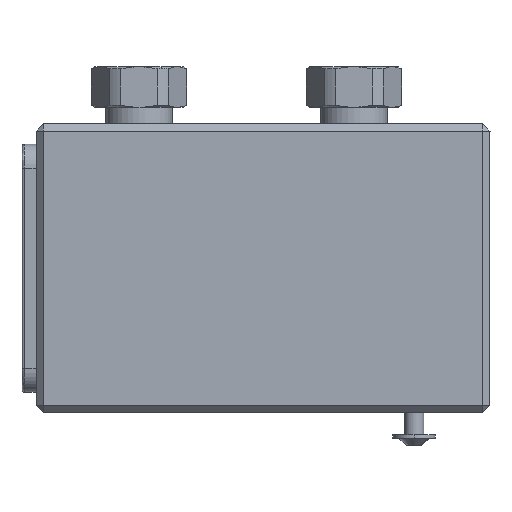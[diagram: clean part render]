
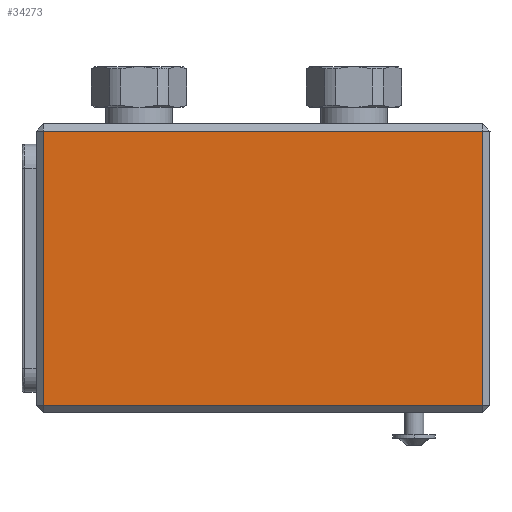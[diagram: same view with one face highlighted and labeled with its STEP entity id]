
A CAD part, front view. The second image highlights one B-rep face of the part: STEP entity #34273.
In plain terms, the highlighted planar face has unit normal (0, -1, 0) as drawn and (-1, 0, 0) by its records, which use the part's own axes.
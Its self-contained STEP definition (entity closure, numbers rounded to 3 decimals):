
#921 = DIRECTION ( 'NONE',  ( 0., 0., 1. ) ) ;
#1494 = VERTEX_POINT ( 'NONE', #40746 ) ;
#3475 = EDGE_CURVE ( 'NONE', #19243, #1494, #20572, .T. ) ;
#3576 = CARTESIAN_POINT ( 'NONE',  ( -117.5, -7.1, 0. ) ) ;
#4121 = FACE_OUTER_BOUND ( 'NONE', #4233, .T. ) ;
#4233 = EDGE_LOOP ( 'NONE', ( #32422, #25214, #22368, #40037 ) ) ;
#11213 = PLANE ( 'NONE',  #14835 ) ;
#13407 = LINE ( 'NONE', #19607, #17943 ) ;
#14691 = VERTEX_POINT ( 'NONE', #37630 ) ;
#14835 = AXIS2_PLACEMENT_3D ( 'NONE', #35612, #25144, #921 ) ;
#15021 = EDGE_CURVE ( 'NONE', #1494, #14691, #24131, .T. ) ;
#16641 = VECTOR ( 'NONE', #44952, 1000. ) ;
#16979 = EDGE_CURVE ( 'NONE', #14691, #34856, #33982, .T. ) ;
#17133 = CARTESIAN_POINT ( 'NONE',  ( -117.5, -10.1, -99. ) ) ;
#17943 = VECTOR ( 'NONE', #30101, 1000. ) ;
#19243 = VERTEX_POINT ( 'NONE', #35775 ) ;
#19607 = CARTESIAN_POINT ( 'NONE',  ( -117.5, 107.9, 0. ) ) ;
#19704 = VECTOR ( 'NONE', #23503, 1000. ) ;
#20572 = LINE ( 'NONE', #17133, #16641 ) ;
#22368 = ORIENTED_EDGE ( 'NONE', *, *, #16979, .T. ) ;
#23242 = VECTOR ( 'NONE', #44432, 1000. ) ;
#23503 = DIRECTION ( 'NONE',  ( 0., 1., 0. ) ) ;
#23721 = CARTESIAN_POINT ( 'NONE',  ( -117.5, -10.1, 85. ) ) ;
#24131 = LINE ( 'NONE', #3576, #23242 ) ;
#24394 = EDGE_CURVE ( 'NONE', #34856, #19243, #13407, .T. ) ;
#25144 = DIRECTION ( 'NONE',  ( -1., 0., 0. ) ) ;
#25214 = ORIENTED_EDGE ( 'NONE', *, *, #15021, .T. ) ;
#30101 = DIRECTION ( 'NONE',  ( 0., 0., -1. ) ) ;
#32422 = ORIENTED_EDGE ( 'NONE', *, *, #3475, .T. ) ;
#33982 = LINE ( 'NONE', #23721, #19704 ) ;
#34273 = ADVANCED_FACE ( 'NONE', ( #4121 ), #11213, .T. ) ;
#34856 = VERTEX_POINT ( 'NONE', #44364 ) ;
#35612 = CARTESIAN_POINT ( 'NONE',  ( -117.5, -10.1, 0. ) ) ;
#35775 = CARTESIAN_POINT ( 'NONE',  ( -117.5, 107.9, -99. ) ) ;
#37630 = CARTESIAN_POINT ( 'NONE',  ( -117.5, -7.1, 85. ) ) ;
#40037 = ORIENTED_EDGE ( 'NONE', *, *, #24394, .T. ) ;
#40746 = CARTESIAN_POINT ( 'NONE',  ( -117.5, -7.1, -99. ) ) ;
#44364 = CARTESIAN_POINT ( 'NONE',  ( -117.5, 107.9, 85. ) ) ;
#44432 = DIRECTION ( 'NONE',  ( 0., 0., 1. ) ) ;
#44952 = DIRECTION ( 'NONE',  ( 0., -1., 0. ) ) ;
